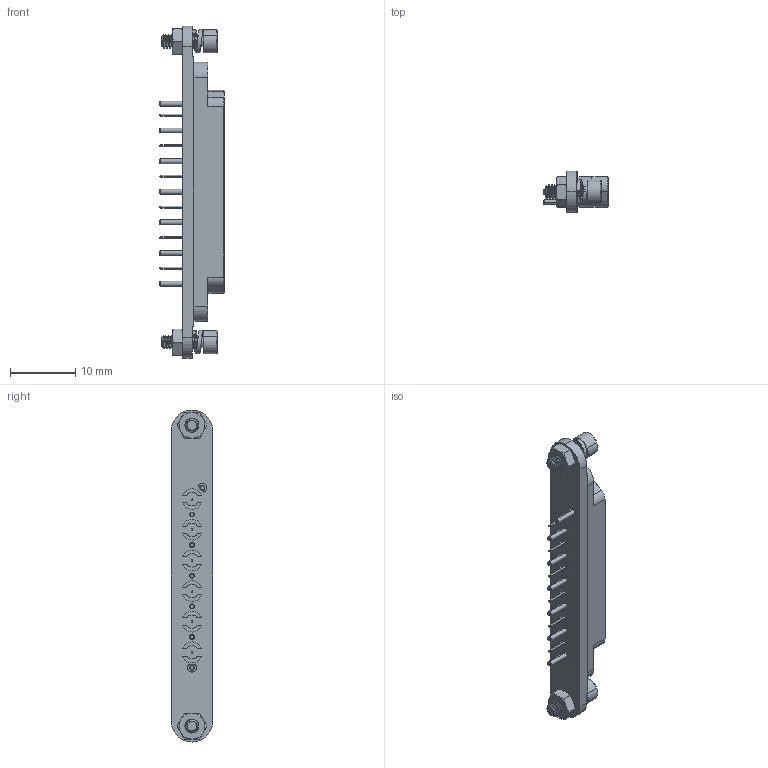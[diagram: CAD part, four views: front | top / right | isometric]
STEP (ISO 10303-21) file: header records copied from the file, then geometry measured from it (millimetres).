
FILE_DESCRIPTION (( 'STEP AP203' ), '1' );
FILE_NAME ('8869000G91P-105.STEP', '2023-11-08T20:48:14', ( '' ), ( '' ), 'SwSTEP 2.0', 'SolidWorks 2022', '' );
FILE_SCHEMA (( 'CONFIG_CONTROL_DESIGN' ));
Length unit declared in the file: inch
Products named in the file (1): 8869000G91P-105
Bounding box: 9.84 x 6.35 x 50.93 mm (x, y, z)
Volume: 1273.3 mm3; surface area: 2031 mm2
Topology: 7 solids, 13 shells, 1342 faces, 3573 edges, 2278 vertices
Faces by surface type: plane 547, cylinder 264, bspline 254, cone 253, sphere 24
Entity records: 60486 total; most frequent: CARTESIAN_POINT 29236, ORIENTED_EDGE 7090, DIRECTION 5553, EDGE_CURVE 3545, VERTEX_POINT 2278, AXIS2_PLACEMENT_3D 1989, LINE 1575, VECTOR 1575
